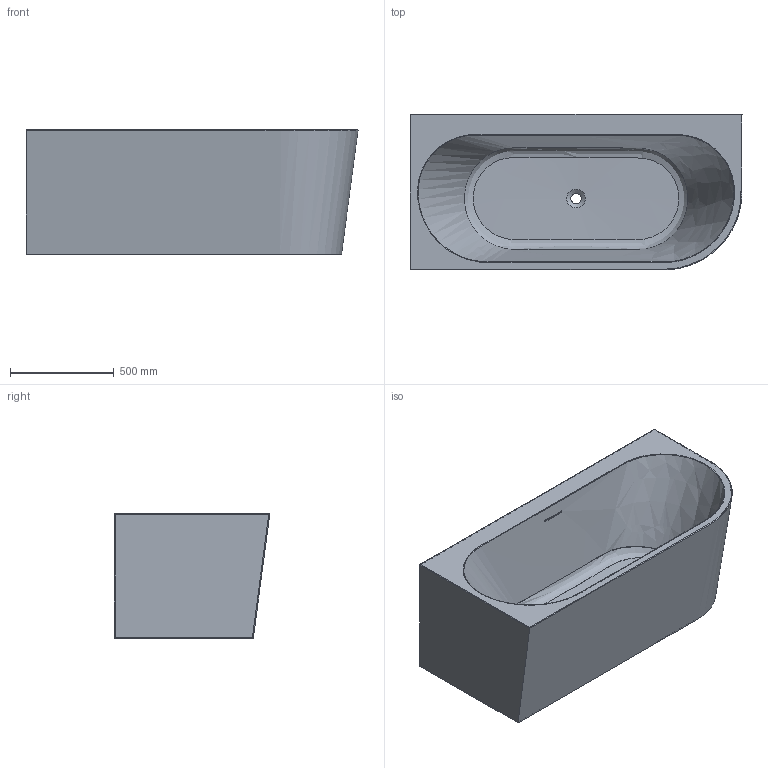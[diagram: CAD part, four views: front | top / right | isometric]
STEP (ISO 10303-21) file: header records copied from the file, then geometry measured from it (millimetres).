
FILE_DESCRIPTION(/* description */ (''),/* implementation_level */ '2;1');
FILE_NAME(/* name */ 'XA-193AR-1600.stp',/* time_stamp */ '2022-11-30T10:57:01+08:00',/* author */ (''),/* organization */ (''),/* preprocessor_version */ 'ST-DEVELOPER v16',/* originating_system */ 'SIEMENS PLM Software NX 10.0',/* authorisation */ '');
FILE_SCHEMA (('AP203_CONFIGURATION_CONTROLLED_3D_DESIGN_OF_MECHANICAL_PARTS_AND_ASSEMBLIES_MIM_LF { 1 0 10303 403 2 1 2}'));
Length unit declared in the file: millimetre
Products named in the file (1): Admi11DC8F1053rf
Bounding box: 1599.57 x 749.57 x 600 mm (x, y, z)
Volume: 24703072.6 mm3; surface area: 9920242 mm2
Topology: 1 solids, 1 shells, 32 faces, 78 edges, 51 vertices
Faces by surface type: plane 13, bspline 9, cylinder 6, cone 4
Full cylindrical faces by diameter (mm): 50 x1, 60 x1
Entity records: 5815 total; most frequent: CARTESIAN_POINT 5128, ORIENTED_EDGE 120, DIRECTION 90, EDGE_CURVE 60, EDGE_LOOP 50, VERTEX_POINT 44, FACE_BOUND 34, AXIS2_PLACEMENT_3D 33
